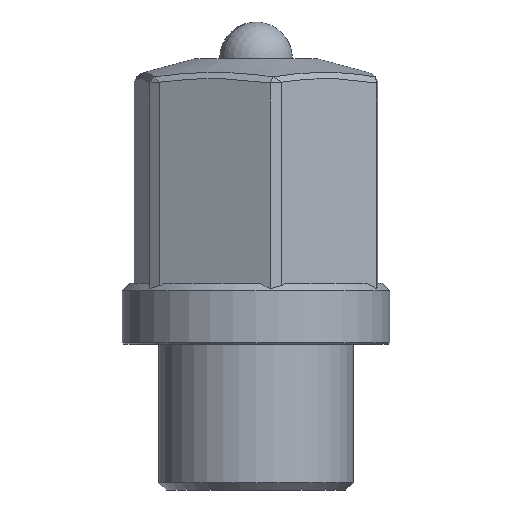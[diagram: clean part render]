
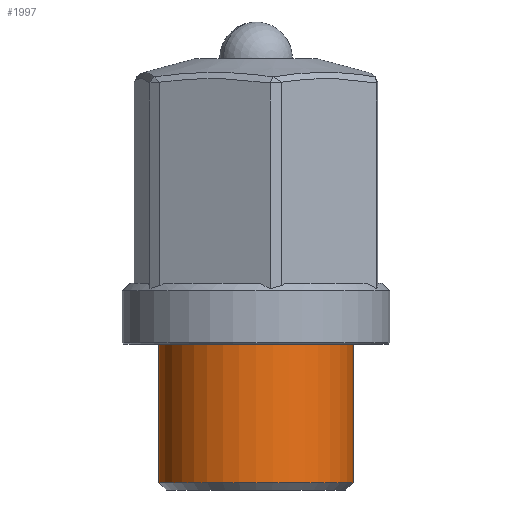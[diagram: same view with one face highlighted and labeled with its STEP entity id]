
A CAD part, front view. The second image highlights one B-rep face of the part: STEP entity #1997.
In plain terms, the highlighted cylindrical face has radius 8 mm (diameter 16 mm), a partial arc.
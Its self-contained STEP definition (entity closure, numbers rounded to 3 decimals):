
#127 = ORIENTED_EDGE ( 'NONE', *, *, #609, .T. ) ;
#198 = VERTEX_POINT ( 'NONE', #538 ) ;
#281 = DIRECTION ( 'NONE',  ( 0., 0., -1. ) ) ;
#314 = DIRECTION ( 'NONE',  ( -1., 0., 0. ) ) ;
#528 = CARTESIAN_POINT ( 'NONE',  ( -8., 0., 12. ) ) ;
#538 = CARTESIAN_POINT ( 'NONE',  ( -8., 0., 12. ) ) ;
#583 = CIRCLE ( 'NONE', #998, 8. ) ;
#609 = EDGE_CURVE ( 'NONE', #198, #2292, #1287, .T. ) ;
#627 = CARTESIAN_POINT ( 'NONE',  ( 8., 0., 12. ) ) ;
#652 = CARTESIAN_POINT ( 'NONE',  ( 0., 0., 0.6 ) ) ;
#679 = CARTESIAN_POINT ( 'NONE',  ( 8., 0., 0.6 ) ) ;
#690 = EDGE_CURVE ( 'NONE', #198, #1122, #583, .T. ) ;
#717 = DIRECTION ( 'NONE',  ( 0., 0., 1. ) ) ;
#868 = CARTESIAN_POINT ( 'NONE',  ( -8., 0., 0.6 ) ) ;
#998 = AXIS2_PLACEMENT_3D ( 'NONE', #1133, #717, #1540 ) ;
#1122 = VERTEX_POINT ( 'NONE', #627 ) ;
#1133 = CARTESIAN_POINT ( 'NONE',  ( 0., 0., 12. ) ) ;
#1287 = LINE ( 'NONE', #528, #1435 ) ;
#1435 = VECTOR ( 'NONE', #2149, 1000. ) ;
#1463 = DIRECTION ( 'NONE',  ( 0., 0., 1. ) ) ;
#1504 = FACE_OUTER_BOUND ( 'NONE', #2472, .T. ) ;
#1540 = DIRECTION ( 'NONE',  ( 1., 0., 0. ) ) ;
#1908 = EDGE_CURVE ( 'NONE', #2292, #1989, #2166, .T. ) ;
#1926 = CARTESIAN_POINT ( 'NONE',  ( 0., 0., 12. ) ) ;
#1989 = VERTEX_POINT ( 'NONE', #679 ) ;
#1991 = AXIS2_PLACEMENT_3D ( 'NONE', #1926, #2126, #314 ) ;
#1997 = ADVANCED_FACE ( 'NONE', ( #1504 ), #2547, .T. ) ;
#2008 = ORIENTED_EDGE ( 'NONE', *, *, #2080, .F. ) ;
#2057 = ORIENTED_EDGE ( 'NONE', *, *, #1908, .T. ) ;
#2061 = LINE ( 'NONE', #2093, #2343 ) ;
#2080 = EDGE_CURVE ( 'NONE', #1122, #1989, #2061, .T. ) ;
#2093 = CARTESIAN_POINT ( 'NONE',  ( 8., 0., 12. ) ) ;
#2126 = DIRECTION ( 'NONE',  ( 0., 0., -1. ) ) ;
#2149 = DIRECTION ( 'NONE',  ( 0., 0., -1. ) ) ;
#2166 = CIRCLE ( 'NONE', #2557, 8. ) ;
#2273 = ORIENTED_EDGE ( 'NONE', *, *, #690, .F. ) ;
#2292 = VERTEX_POINT ( 'NONE', #868 ) ;
#2343 = VECTOR ( 'NONE', #281, 1000. ) ;
#2472 = EDGE_LOOP ( 'NONE', ( #2008, #2273, #127, #2057 ) ) ;
#2520 = DIRECTION ( 'NONE',  ( 1., 0., 0. ) ) ;
#2547 = CYLINDRICAL_SURFACE ( 'NONE', #1991, 8. ) ;
#2557 = AXIS2_PLACEMENT_3D ( 'NONE', #652, #1463, #2520 ) ;
